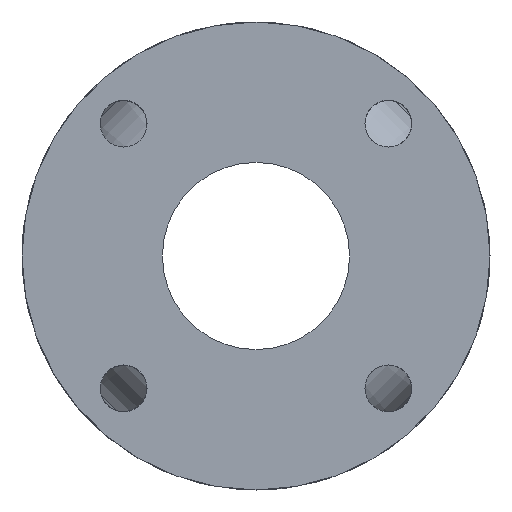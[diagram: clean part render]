
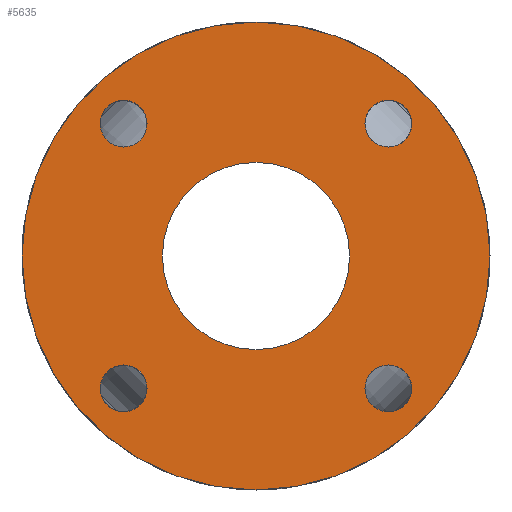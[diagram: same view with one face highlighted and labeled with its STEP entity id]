
A CAD part, left-side view. The second image highlights one B-rep face of the part: STEP entity #5635.
In plain terms, the highlighted planar face has unit normal (-1, 0, 0).
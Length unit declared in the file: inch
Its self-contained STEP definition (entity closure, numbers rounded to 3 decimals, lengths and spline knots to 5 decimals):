
#5388=CARTESIAN_POINT('',(-5.,-1.74632,-2.12132));
#5389=VERTEX_POINT('',#5388);
#5390=CARTESIAN_POINT('',(-5.,-2.12132,-2.12132));
#5391=DIRECTION('',(1.0,0.0,0.0));
#5392=DIRECTION('',(0.0,-1.0,0.0));
#5393=AXIS2_PLACEMENT_3D('',#5390,#5391,#5392);
#5394=CIRCLE('',#5393,0.375);
#5395=EDGE_CURVE('',#5389,#5389,#5394,.T.);
#5416=CARTESIAN_POINT('',(-5.,-2.12132,1.74632));
#5417=VERTEX_POINT('',#5416);
#5418=CARTESIAN_POINT('',(-5.,-2.12132,2.12132));
#5419=DIRECTION('',(1.0,0.0,0.0));
#5420=DIRECTION('',(0.0,0.0,1.0));
#5421=AXIS2_PLACEMENT_3D('',#5418,#5419,#5420);
#5422=CIRCLE('',#5421,0.375);
#5423=EDGE_CURVE('',#5417,#5417,#5422,.T.);
#5444=CARTESIAN_POINT('',(-5.,1.74632,2.12132));
#5445=VERTEX_POINT('',#5444);
#5446=CARTESIAN_POINT('',(-5.,2.12132,2.12132));
#5447=DIRECTION('',(1.0,0.0,0.0));
#5448=DIRECTION('',(0.0,1.0,0.0));
#5449=AXIS2_PLACEMENT_3D('',#5446,#5447,#5448);
#5450=CIRCLE('',#5449,0.375);
#5451=EDGE_CURVE('',#5445,#5445,#5450,.T.);
#5472=CARTESIAN_POINT('',(-5.,2.12132,-1.74632));
#5473=VERTEX_POINT('',#5472);
#5474=CARTESIAN_POINT('',(-5.,2.12132,-2.12132));
#5475=DIRECTION('',(1.0,0.0,0.0));
#5476=DIRECTION('',(0.0,0.0,-1.0));
#5477=AXIS2_PLACEMENT_3D('',#5474,#5475,#5476);
#5478=CIRCLE('',#5477,0.375);
#5479=EDGE_CURVE('',#5473,#5473,#5478,.T.);
#5596=CARTESIAN_POINT('',(-5.,3.6875,0.0));
#5597=DIRECTION('',(-1.0,0.0,0.0));
#5598=DIRECTION('',(0.0,0.0,1.0));
#5599=AXIS2_PLACEMENT_3D('',#5596,#5597,#5598);
#5600=PLANE('',#5599);
#5601=CARTESIAN_POINT('',(-5.,3.75,0.0));
#5602=VERTEX_POINT('',#5601);
#5603=CARTESIAN_POINT('',(-5.,0.0,0.0));
#5604=DIRECTION('',(1.0,0.0,0.0));
#5605=DIRECTION('',(0.0,1.0,0.0));
#5606=AXIS2_PLACEMENT_3D('',#5603,#5604,#5605);
#5607=CIRCLE('',#5606,3.75);
#5608=EDGE_CURVE('',#5602,#5602,#5607,.T.);
#5609=ORIENTED_EDGE('',*,*,#5608,.F.);
#5610=EDGE_LOOP('',(#5609));
#5611=FACE_OUTER_BOUND('',#5610,.T.);
#5612=ORIENTED_EDGE('',*,*,#5395,.T.);
#5613=EDGE_LOOP('',(#5612));
#5614=FACE_BOUND('',#5613,.T.);
#5615=ORIENTED_EDGE('',*,*,#5423,.T.);
#5616=EDGE_LOOP('',(#5615));
#5617=FACE_BOUND('',#5616,.T.);
#5618=ORIENTED_EDGE('',*,*,#5451,.T.);
#5619=EDGE_LOOP('',(#5618));
#5620=FACE_BOUND('',#5619,.T.);
#5621=ORIENTED_EDGE('',*,*,#5479,.T.);
#5622=EDGE_LOOP('',(#5621));
#5623=FACE_BOUND('',#5622,.T.);
#5624=CARTESIAN_POINT('',(-5.,1.5,0.0));
#5625=VERTEX_POINT('',#5624);
#5626=CARTESIAN_POINT('',(-5.,0.0,0.0));
#5627=DIRECTION('',(1.0,0.0,0.0));
#5628=DIRECTION('',(0.0,1.0,0.0));
#5629=AXIS2_PLACEMENT_3D('',#5626,#5627,#5628);
#5630=CIRCLE('',#5629,1.5);
#5631=EDGE_CURVE('',#5625,#5625,#5630,.T.);
#5632=ORIENTED_EDGE('',*,*,#5631,.T.);
#5633=EDGE_LOOP('',(#5632));
#5634=FACE_BOUND('',#5633,.T.);
#5635=ADVANCED_FACE('',(#5611,#5614,#5617,#5620,#5623,#5634),#5600,.T.);
